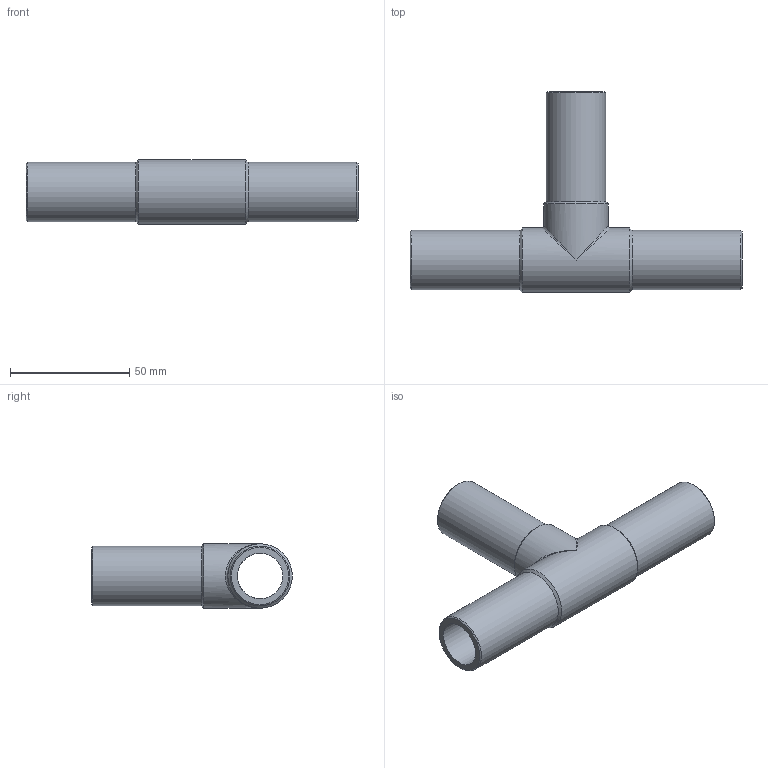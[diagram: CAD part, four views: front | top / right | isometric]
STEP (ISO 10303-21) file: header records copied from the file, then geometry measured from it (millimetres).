
FILE_DESCRIPTION(/* description */ ('Unknown'),/* implementation_level */ '2;1');
FILE_NAME(/* name */ 'TP025C',/* time_stamp */ '2021-08-11T17:42:22+02:00',/* author */ ('Unknown'),/* organization */ ('Unknown'),/* preprocessor_version */ 'ST-DEVELOPER v16.7',/* originating_system */ 'Solid Edge',/* authorisation */ 'Unknown');
FILE_SCHEMA (('AUTOMOTIVE_DESIGN {1 0 10303 214 3 1 1}'));
Length unit declared in the file: millimetre
Products named in the file (1): TP025C
Bounding box: 139 x 84 x 27 mm (x, y, z)
Volume: 44858.4 mm3; surface area: 27858.6 mm2
Topology: 1 solids, 1 shells, 18 faces, 44 edges, 23 vertices
Faces by surface type: cylinder 7, cone 6, plane 3, bspline 2
Full cylindrical faces by diameter (mm): 19 x2, 25 x3, 27 x2
Entity records: 480 total; most frequent: CARTESIAN_POINT 123, DIRECTION 76, ORIENTED_EDGE 42, AXIS2_PLACEMENT_3D 38, EDGE_LOOP 36, FACE_BOUND 36, EDGE_CURVE 21, VERTEX_POINT 19
